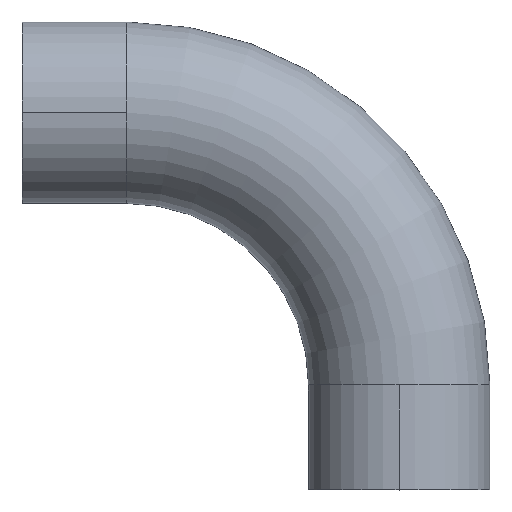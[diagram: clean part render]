
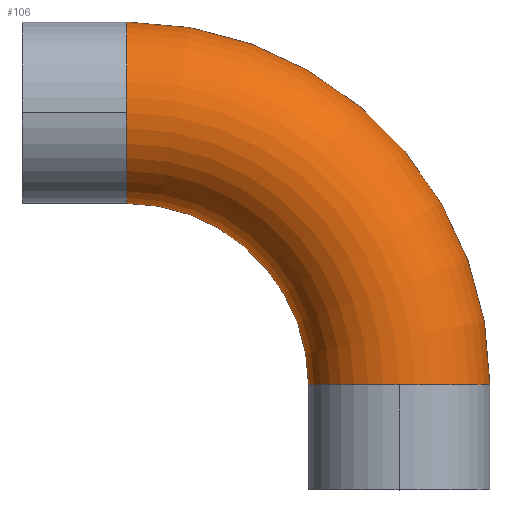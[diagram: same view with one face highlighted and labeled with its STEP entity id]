
A CAD part, top view. The second image highlights one B-rep face of the part: STEP entity #106.
In plain terms, the highlighted toroidal (fillet/blend) face has major radius 152.4 mm and minor radius 50.8 mm.
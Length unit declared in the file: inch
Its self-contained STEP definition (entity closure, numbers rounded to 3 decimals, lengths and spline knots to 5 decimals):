
#16 = DIRECTION ( 'NONE',  ( 0., 0., 1. ) ) ;
#21 = EDGE_CURVE ( 'NONE', #416, #124, #518, .T. ) ;
#25 = DIRECTION ( 'NONE',  ( 0., 1., 0. ) ) ;
#28 = VERTEX_POINT ( 'NONE', #472 ) ;
#46 = ORIENTED_EDGE ( 'NONE', *, *, #52, .T. ) ;
#52 = EDGE_CURVE ( 'NONE', #180, #304, #182, .T. ) ;
#61 = CIRCLE ( 'NONE', #331, 2. ) ;
#78 = CARTESIAN_POINT ( 'NONE',  ( -6., 6.312, 0. ) ) ;
#81 = DIRECTION ( 'NONE',  ( 0., 0., 1. ) ) ;
#84 = CARTESIAN_POINT ( 'NONE',  ( -6., 2.312, 0. ) ) ;
#89 = DIRECTION ( 'NONE',  ( 0., 0., 1. ) ) ;
#98 = EDGE_LOOP ( 'NONE', ( #511, #46, #174, #532, #428, #213 ) ) ;
#106 = ADVANCED_FACE ( 'NONE', ( #383 ), #157, .T. ) ;
#124 = VERTEX_POINT ( 'NONE', #78 ) ;
#131 = CARTESIAN_POINT ( 'NONE',  ( -6., 10.312, 0. ) ) ;
#156 = CARTESIAN_POINT ( 'NONE',  ( 0., 2.312, 0. ) ) ;
#157 = TOROIDAL_SURFACE ( 'NONE', #378, 6., 2. ) ;
#165 = DIRECTION ( 'NONE',  ( 0., 0., 1. ) ) ;
#174 = ORIENTED_EDGE ( 'NONE', *, *, #337, .F. ) ;
#180 = VERTEX_POINT ( 'NONE', #504 ) ;
#182 = CIRCLE ( 'NONE', #403, 8. ) ;
#213 = ORIENTED_EDGE ( 'NONE', *, *, #411, .T. ) ;
#227 = CARTESIAN_POINT ( 'NONE',  ( -2., 2.312, 0. ) ) ;
#228 = DIRECTION ( 'NONE',  ( 0., 0., 1. ) ) ;
#229 = CARTESIAN_POINT ( 'NONE',  ( -6., 8.312, 2. ) ) ;
#242 = DIRECTION ( 'NONE',  ( 0., 0., 1. ) ) ;
#253 = AXIS2_PLACEMENT_3D ( 'NONE', #288, #490, #242 ) ;
#264 = DIRECTION ( 'NONE',  ( 1., 0., 0. ) ) ;
#282 = AXIS2_PLACEMENT_3D ( 'NONE', #308, #16, #264 ) ;
#285 = CARTESIAN_POINT ( 'NONE',  ( -6., 8.312, 0. ) ) ;
#288 = CARTESIAN_POINT ( 'NONE',  ( 0., 2.312, 0. ) ) ;
#297 = DIRECTION ( 'NONE',  ( -1., 0., 0. ) ) ;
#304 = VERTEX_POINT ( 'NONE', #131 ) ;
#308 = CARTESIAN_POINT ( 'NONE',  ( -6., 2.312, 0. ) ) ;
#313 = CIRCLE ( 'NONE', #442, 2. ) ;
#317 = EDGE_CURVE ( 'NONE', #124, #365, #409, .T. ) ;
#331 = AXIS2_PLACEMENT_3D ( 'NONE', #156, #25, #228 ) ;
#336 = DIRECTION ( 'NONE',  ( 0., 0., 1. ) ) ;
#337 = EDGE_CURVE ( 'NONE', #365, #304, #313, .T. ) ;
#346 = CIRCLE ( 'NONE', #253, 2. ) ;
#365 = VERTEX_POINT ( 'NONE', #229 ) ;
#378 = AXIS2_PLACEMENT_3D ( 'NONE', #84, #165, #500 ) ;
#383 = FACE_OUTER_BOUND ( 'NONE', #98, .T. ) ;
#403 = AXIS2_PLACEMENT_3D ( 'NONE', #520, #89, #486 ) ;
#409 = CIRCLE ( 'NONE', #499, 2. ) ;
#411 = EDGE_CURVE ( 'NONE', #416, #28, #61, .T. ) ;
#416 = VERTEX_POINT ( 'NONE', #227 ) ;
#428 = ORIENTED_EDGE ( 'NONE', *, *, #21, .F. ) ;
#442 = AXIS2_PLACEMENT_3D ( 'NONE', #459, #297, #81 ) ;
#459 = CARTESIAN_POINT ( 'NONE',  ( -6., 8.312, 0. ) ) ;
#461 = DIRECTION ( 'NONE',  ( -1., 0., 0. ) ) ;
#472 = CARTESIAN_POINT ( 'NONE',  ( 0., 2.312, 2. ) ) ;
#476 = EDGE_CURVE ( 'NONE', #28, #180, #346, .T. ) ;
#486 = DIRECTION ( 'NONE',  ( 1., 0., 0. ) ) ;
#490 = DIRECTION ( 'NONE',  ( 0., 1., 0. ) ) ;
#499 = AXIS2_PLACEMENT_3D ( 'NONE', #285, #461, #336 ) ;
#500 = DIRECTION ( 'NONE',  ( 1., 0., 0. ) ) ;
#504 = CARTESIAN_POINT ( 'NONE',  ( 2., 2.312, 0. ) ) ;
#511 = ORIENTED_EDGE ( 'NONE', *, *, #476, .T. ) ;
#518 = CIRCLE ( 'NONE', #282, 4. ) ;
#520 = CARTESIAN_POINT ( 'NONE',  ( -6., 2.312, 0. ) ) ;
#532 = ORIENTED_EDGE ( 'NONE', *, *, #317, .F. ) ;
